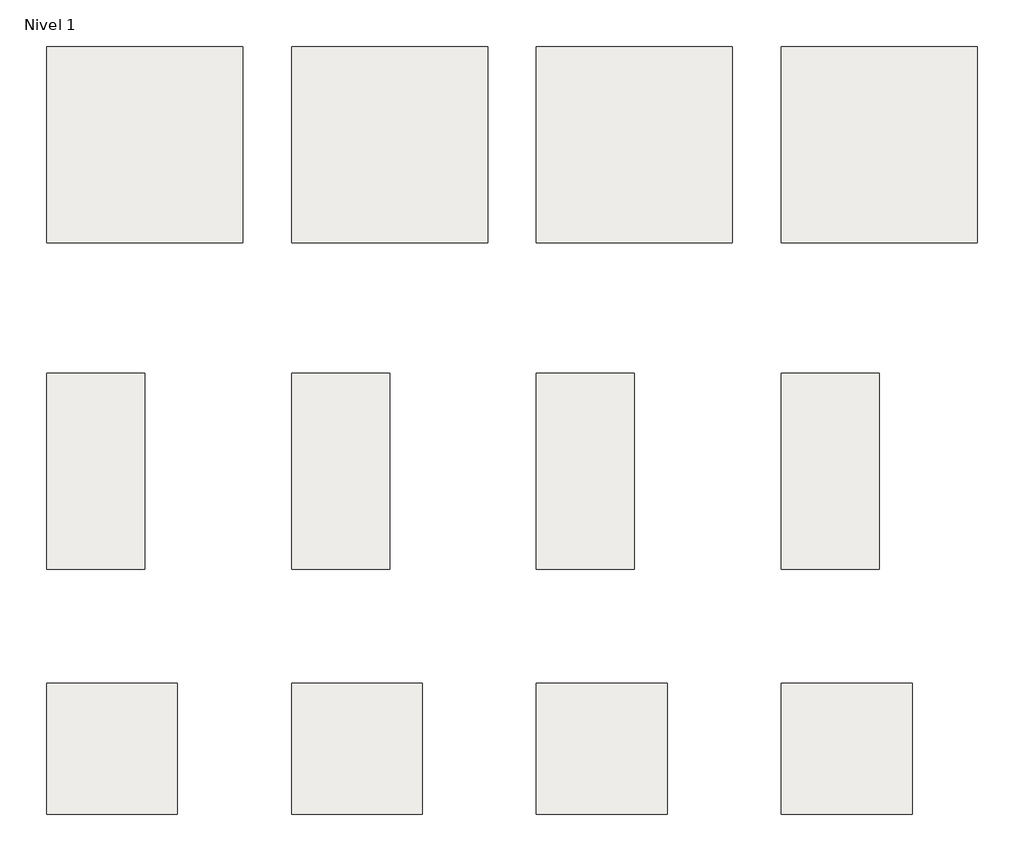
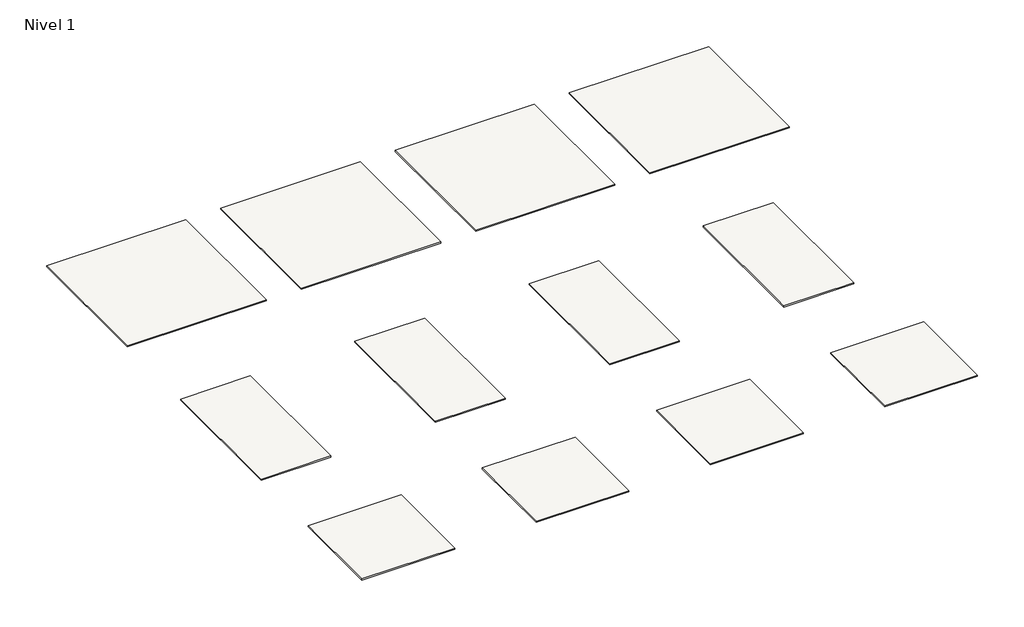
# One storey: 12 slabs.
"""IFC4 building model written with IfcOpenShell, lengths in millimetres."""

from ifc_helpers import new_model, si_unit, frame, origin, place, context, project, spatial, polyline, outline, extrude, element, save

model = new_model("IFC4")

# Units and contexts
model_context = context("Model", 3, world=origin())
ifc_project = project(units=[si_unit("LENGTHUNIT", "METRE", prefix="MILLI")], contexts=[model_context])

# Site, building, storey
site = spatial("IfcSite", under=ifc_project)
building = spatial("IfcBuilding", under=site)
storey = spatial("IfcBuildingStorey", under=building, Name="Nivel 1", Elevation=0.0)

# Slabs
placement = place(None, origin())
element("IfcSlab", 1, ObjectType="Bierzo Perla 120X120 Rec", at=placement, inside=storey, context=model_context, shape_type="SweptSolid", body=[
    extrude(outline(polyline([(0.0, 1200.0), (1200.0, 1200.0), (1200.0, 0.0), (0.0, 0.0), (0.0, 1200.0)])), frame((0.0, 0.0, -10.0), z_axis=(0.0, 0.0, 1.0), x_axis=(1.0, 0.0, 0.0)), (0.0, 0.0, 1.0), 10.0),
])
element("IfcSlab", 2, ObjectType="Bierzo Moka 120X120 Rec", at=placement, inside=storey, context=model_context, shape_type="SweptSolid", body=[
    extrude(outline(polyline([(1500.0, 1200.0), (2700.0, 1200.0), (2700.0, 0.0), (1500.0, 0.0), (1500.0, 1200.0)])), frame((0.0, 0.0, -10.0), z_axis=(0.0, 0.0, 1.0), x_axis=(1.0, 0.0, 0.0)), (0.0, 0.0, 1.0), 10.0),
])
element("IfcSlab", 3, ObjectType="Bierzo Gris 120X120 Rec", at=placement, inside=storey, context=model_context, shape_type="SweptSolid", body=[
    extrude(outline(polyline([(3000.0, 1200.0), (4200.0, 1200.0), (4200.0, 0.0), (3000.0, 0.0), (3000.0, 1200.0)])), frame((0.0, 0.0, -10.0), z_axis=(0.0, 0.0, 1.0), x_axis=(1.0, 0.0, 0.0)), (0.0, 0.0, 1.0), 10.0),
])
element("IfcSlab", 4, ObjectType="Bierzo Marfil 120X120 Rec", at=placement, inside=storey, context=model_context, shape_type="SweptSolid", body=[
    extrude(outline(polyline([(4500.0, 1200.0), (5700.0, 1200.0), (5700.0, 0.0), (4500.0, 0.0), (4500.0, 1200.0)])), frame((0.0, 0.0, -10.0), z_axis=(0.0, 0.0, 1.0), x_axis=(1.0, 0.0, 0.0)), (0.0, 0.0, 1.0), 10.0),
])
element("IfcSlab", 5, ObjectType="Bierzo Perla 60X120 Rec", at=placement, inside=storey, context=model_context, shape_type="SweptSolid", body=[
    extrude(outline(polyline([(0.0, -800.0), (600.0, -800.0), (600.0, -2000.0), (0.0, -2000.0), (0.0, -800.0)])), frame((0.0, 0.0, -10.0), z_axis=(0.0, 0.0, 1.0), x_axis=(1.0, 0.0, 0.0)), (0.0, 0.0, 1.0), 10.0),
])
element("IfcSlab", 6, ObjectType="Bierzo Moka 60X120 Rec", at=placement, inside=storey, context=model_context, shape_type="SweptSolid", body=[
    extrude(outline(polyline([(1500.0, -800.0), (2100.0, -800.0), (2100.0, -2000.0), (1500.0, -2000.0), (1500.0, -800.0)])), frame((0.0, 0.0, -10.0), z_axis=(0.0, 0.0, 1.0), x_axis=(1.0, 0.0, 0.0)), (0.0, 0.0, 1.0), 10.0),
])
element("IfcSlab", 7, ObjectType="Bierzo Gris 60X120 Rec", at=placement, inside=storey, context=model_context, shape_type="SweptSolid", body=[
    extrude(outline(polyline([(3000.0, -800.0), (3600.0, -800.0), (3600.0, -2000.0), (3000.0, -2000.0), (3000.0, -800.0)])), frame((0.0, 0.0, -10.0), z_axis=(0.0, 0.0, 1.0), x_axis=(1.0, 0.0, 0.0)), (0.0, 0.0, 1.0), 10.0),
])
element("IfcSlab", 8, ObjectType="Bierzo Marfil 60X120 Rec", at=placement, inside=storey, context=model_context, shape_type="SweptSolid", body=[
    extrude(outline(polyline([(4500.0, -800.0), (5100.0, -800.0), (5100.0, -2000.0), (4500.0, -2000.0), (4500.0, -800.0)])), frame((0.0, 0.0, -10.0), z_axis=(0.0, 0.0, 1.0), x_axis=(1.0, 0.0, 0.0)), (0.0, 0.0, 1.0), 10.0),
])
element("IfcSlab", 9, ObjectType="Bierzo Perla 80X80 Rec", at=placement, inside=storey, context=model_context, shape_type="SweptSolid", body=[
    extrude(outline(polyline([(0.0, -2700.0), (800.0, -2700.0), (800.0, -3500.0), (0.0, -3500.0), (0.0, -2700.0)])), frame((0.0, 0.0, -10.0), z_axis=(0.0, 0.0, 1.0), x_axis=(1.0, 0.0, 0.0)), (0.0, 0.0, 1.0), 10.0),
])
element("IfcSlab", 10, ObjectType="Bierzo Moka 80X80 Rec", at=placement, inside=storey, context=model_context, shape_type="SweptSolid", body=[
    extrude(outline(polyline([(1500.0, -2700.0), (2300.0, -2700.0), (2300.0, -3500.0), (1500.0, -3500.0), (1500.0, -2700.0)])), frame((0.0, 0.0, -10.0), z_axis=(0.0, 0.0, 1.0), x_axis=(1.0, 0.0, 0.0)), (0.0, 0.0, 1.0), 10.0),
])
element("IfcSlab", 11, ObjectType="Bierzo Gris 80X80 Rec", at=placement, inside=storey, context=model_context, shape_type="SweptSolid", body=[
    extrude(outline(polyline([(3000.0, -2700.0), (3800.0, -2700.0), (3800.0, -3500.0), (3000.0, -3500.0), (3000.0, -2700.0)])), frame((0.0, 0.0, -10.0), z_axis=(0.0, 0.0, 1.0), x_axis=(1.0, 0.0, 0.0)), (0.0, 0.0, 1.0), 10.0),
])
element("IfcSlab", 12, ObjectType="Bierzo Marfil 80X80 Rec", at=placement, inside=storey, context=model_context, shape_type="SweptSolid", body=[
    extrude(outline(polyline([(4500.0, -2700.0), (5300.0, -2700.0), (5300.0, -3500.0), (4500.0, -3500.0), (4500.0, -2700.0)])), frame((0.0, 0.0, -10.0), z_axis=(0.0, 0.0, 1.0), x_axis=(1.0, 0.0, 0.0)), (0.0, 0.0, 1.0), 10.0),
])

save(model, "model.ifc")
